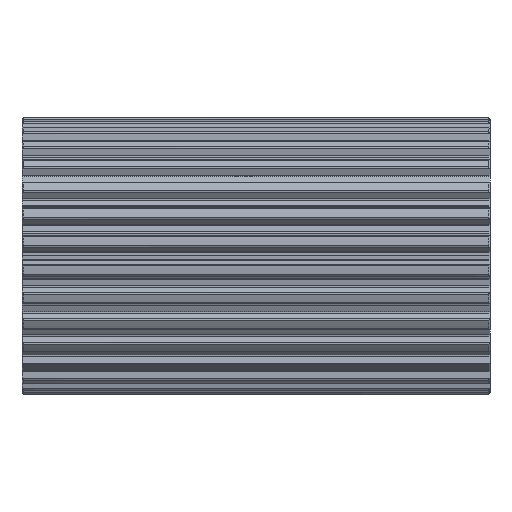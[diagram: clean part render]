
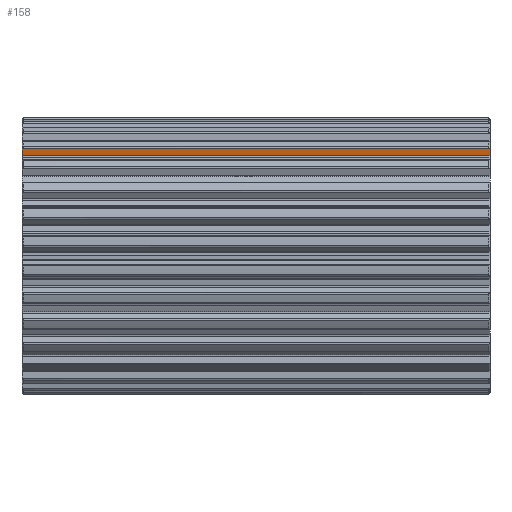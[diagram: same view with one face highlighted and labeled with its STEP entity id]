
A CAD part, top view. The second image highlights one B-rep face of the part: STEP entity #158.
In plain terms, the highlighted planar face has unit normal (0, -0.191, 0.982).
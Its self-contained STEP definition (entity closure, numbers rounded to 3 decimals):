
#158=ADVANCED_FACE('',(#562),#563,.T.);
#562=FACE_OUTER_BOUND('',#1204,.T.);
#563=PLANE('',#1205);
#1204=EDGE_LOOP('',(#2341,#2342,#2343,#2344,#2345,#2346));
#1205=AXIS2_PLACEMENT_3D('',#2347,#2348,#2349);
#2341=ORIENTED_EDGE('',*,*,#4625,.T.);
#2342=ORIENTED_EDGE('',*,*,#4856,.F.);
#2343=ORIENTED_EDGE('',*,*,#4857,.T.);
#2344=ORIENTED_EDGE('',*,*,#4858,.T.);
#2345=ORIENTED_EDGE('',*,*,#4859,.T.);
#2346=ORIENTED_EDGE('',*,*,#4854,.F.);
#2347=CARTESIAN_POINT('',(0.0,35.447,28.94));
#2348=DIRECTION('',(0.,-0.191,0.982));
#2349=DIRECTION('',(0.,-0.982,-0.191));
#4625=EDGE_CURVE('',#5658,#5656,#5659,.T.);
#4854=EDGE_CURVE('',#5658,#6080,#6081,.T.);
#4856=EDGE_CURVE('',#6083,#5656,#6084,.T.);
#4857=EDGE_CURVE('',#6083,#6085,#6086,.T.);
#4858=EDGE_CURVE('',#6085,#6087,#6088,.T.);
#4859=EDGE_CURVE('',#6087,#6080,#6089,.T.);
#5656=VERTEX_POINT('',#7564);
#5658=VERTEX_POINT('',#7566);
#5659=(B_SPLINE_CURVE(2,(#7568,#7569,#7570),.UNSPECIFIED.,.F.,.F.)B_SPLINE_CURVE_WITH_KNOTS((3,3),(0.0,0.753),.UNSPECIFIED.)RATIONAL_B_SPLINE_CURVE((1.0,1.,1.0))BOUNDED_CURVE()REPRESENTATION_ITEM('')GEOMETRIC_REPRESENTATION_ITEM()CURVE());
#6080=VERTEX_POINT('',#8904);
#6081=LINE('',#8905,#8906);
#6083=VERTEX_POINT('',#8915);
#6084=LINE('',#8916,#8917);
#6085=VERTEX_POINT('',#8918);
#6086=LINE('',#8919,#8920);
#6087=VERTEX_POINT('',#8921);
#6088=LINE('',#8922,#8923);
#6089=(B_SPLINE_CURVE(2,(#8925,#8926,#8927),.UNSPECIFIED.,.F.,.F.)B_SPLINE_CURVE_WITH_KNOTS((3,3),(0.0,0.753),.UNSPECIFIED.)RATIONAL_B_SPLINE_CURVE((1.0,1.,1.0))BOUNDED_CURVE()REPRESENTATION_ITEM('')GEOMETRIC_REPRESENTATION_ITEM()CURVE());
#7564=CARTESIAN_POINT('',(0.0,36.541,29.152));
#7566=CARTESIAN_POINT('',(0.084,36.634,29.17));
#7568=CARTESIAN_POINT('',(0.5,37.094,29.26));
#7569=CARTESIAN_POINT('',(0.248,36.816,29.206));
#7570=CARTESIAN_POINT('',(0.0,36.541,29.152));
#8904=CARTESIAN_POINT('',(159.916,36.634,29.17));
#8905=CARTESIAN_POINT('',(0.0,36.634,29.17));
#8906=VECTOR('',#11276,1.0);
#8915=CARTESIAN_POINT('',(0.0,34.26,28.709));
#8916=CARTESIAN_POINT('',(0.0,34.26,28.709));
#8917=VECTOR('',#11277,1.0);
#8918=CARTESIAN_POINT('',(160.0,34.26,28.709));
#8919=CARTESIAN_POINT('',(0.0,34.26,28.709));
#8920=VECTOR('',#11278,1.0);
#8921=CARTESIAN_POINT('',(160.0,36.541,29.152));
#8922=CARTESIAN_POINT('',(160.0,34.26,28.709));
#8923=VECTOR('',#11279,1.0);
#8925=CARTESIAN_POINT('',(160.0,36.541,29.152));
#8926=CARTESIAN_POINT('',(159.752,36.816,29.206));
#8927=CARTESIAN_POINT('',(159.5,37.094,29.26));
#11276=DIRECTION('',(1.0,0.,0.));
#11277=DIRECTION('',(0.,0.982,0.191));
#11278=DIRECTION('',(1.0,0.,0.));
#11279=DIRECTION('',(0.,0.982,0.191));
